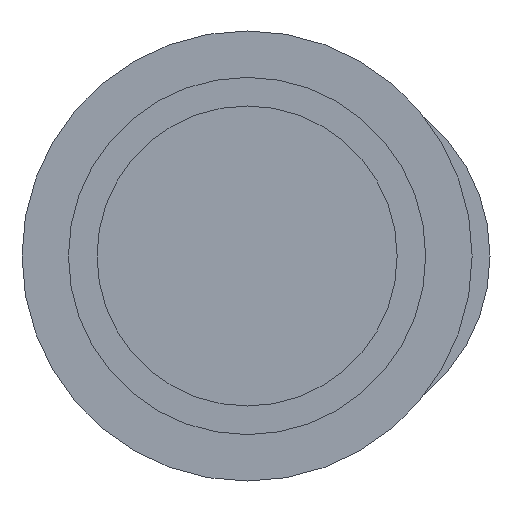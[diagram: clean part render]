
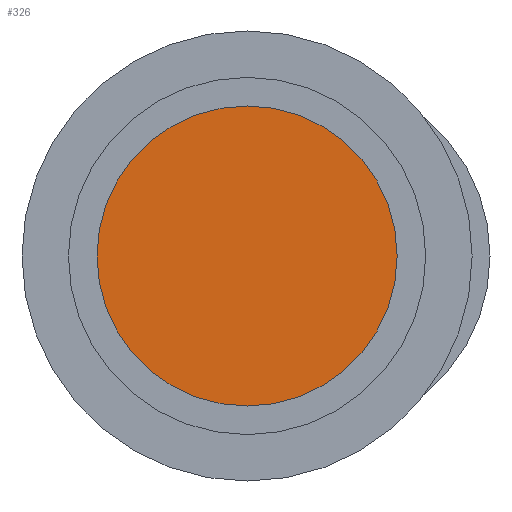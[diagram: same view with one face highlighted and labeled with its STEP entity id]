
A CAD part, left-side view. The second image highlights one B-rep face of the part: STEP entity #326.
In plain terms, the highlighted planar face has unit normal (-1, 0, 0).
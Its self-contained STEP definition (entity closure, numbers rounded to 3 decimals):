
#212=CARTESIAN_POINT('Vertex',(0.,0.,-21.)) ;
#215=CARTESIAN_POINT('Axis2P3D Location',(0.,0.,0.)) ;
#219=CARTESIAN_POINT('Vertex',(0.,21.,0.)) ;
#222=CARTESIAN_POINT('Axis2P3D Location',(0.,0.,0.)) ;
#226=CARTESIAN_POINT('Vertex',(0.,0.,21.)) ;
#248=CARTESIAN_POINT('Axis2P3D Location',(0.,0.,0.)) ;
#252=CARTESIAN_POINT('Vertex',(0.,-21.,0.)) ;
#255=CARTESIAN_POINT('Axis2P3D Location',(0.,0.,0.)) ;
#315=CARTESIAN_POINT('Axis2P3D Location',(0.,0.,0.)) ;
#216=DIRECTION('Axis2P3D Direction',(-1.,-0.,-0.)) ;
#223=DIRECTION('Axis2P3D Direction',(-1.,-0.,-0.)) ;
#249=DIRECTION('Axis2P3D Direction',(-1.,-0.,-0.)) ;
#256=DIRECTION('Axis2P3D Direction',(-1.,-0.,-0.)) ;
#316=DIRECTION('Axis2P3D Direction',(1.,0.,-0.)) ;
#317=DIRECTION('Axis2P3D XDirection',(-0.,0.,-1.)) ;
#217=AXIS2_PLACEMENT_3D('Circle Axis2P3D',#215,#216,$) ;
#224=AXIS2_PLACEMENT_3D('Circle Axis2P3D',#222,#223,$) ;
#250=AXIS2_PLACEMENT_3D('Circle Axis2P3D',#248,#249,$) ;
#257=AXIS2_PLACEMENT_3D('Circle Axis2P3D',#255,#256,$) ;
#318=AXIS2_PLACEMENT_3D('Plane Axis2P3D',#315,#316,#317) ;
#321=ORIENTED_EDGE('',*,*,#221,.F.) ;
#322=ORIENTED_EDGE('',*,*,#259,.F.) ;
#323=ORIENTED_EDGE('',*,*,#254,.F.) ;
#324=ORIENTED_EDGE('',*,*,#228,.F.) ;
#326=ADVANCED_FACE('395X-050-190/1',(#325),#319,.F.) ;
#218=CIRCLE('generated circle',#217,21.) ;
#225=CIRCLE('generated circle',#224,21.) ;
#251=CIRCLE('generated circle',#250,21.) ;
#258=CIRCLE('generated circle',#257,21.) ;
#221=EDGE_CURVE('',#213,#220,#218,.F.) ;
#228=EDGE_CURVE('',#220,#227,#225,.F.) ;
#254=EDGE_CURVE('',#227,#253,#251,.F.) ;
#259=EDGE_CURVE('',#253,#213,#258,.F.) ;
#320=EDGE_LOOP('',(#321,#322,#323,#324)) ;
#325=FACE_OUTER_BOUND('',#320,.T.) ;
#319=PLANE('Plane',#318) ;
#213=VERTEX_POINT('',#212) ;
#220=VERTEX_POINT('',#219) ;
#227=VERTEX_POINT('',#226) ;
#253=VERTEX_POINT('',#252) ;
